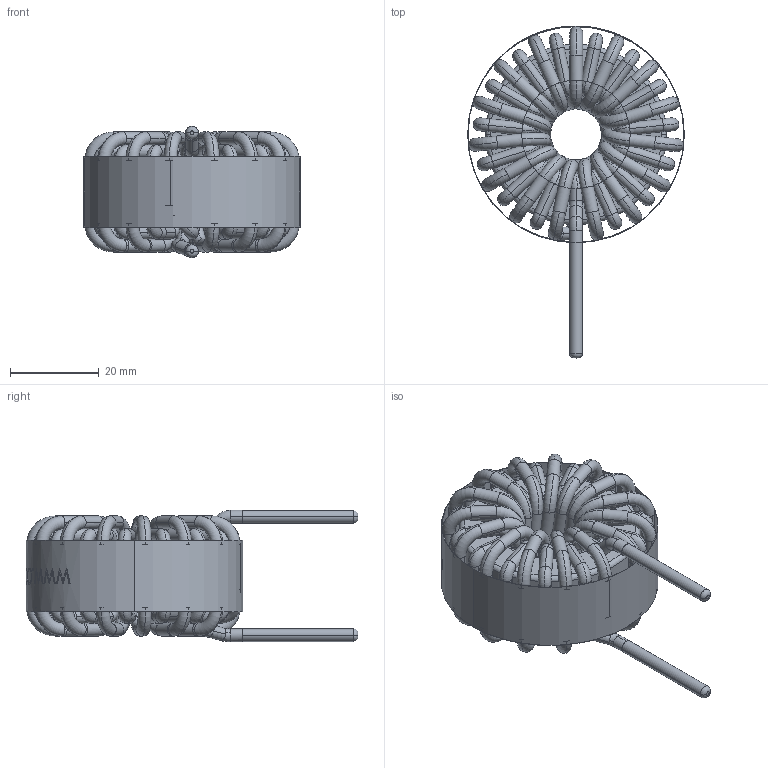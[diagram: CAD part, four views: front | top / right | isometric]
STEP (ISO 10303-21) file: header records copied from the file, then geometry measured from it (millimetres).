
FILE_DESCRIPTION (( 'STEP AP214' ), '1' );
FILE_NAME ('HF400-900M-55AV.step', '2021-03-04T09:51:14', ( '' ), ( '' ), 'SwSTEP 2.0', 'SolidWorks 2015', '' );
FILE_SCHEMA (( 'AUTOMOTIVE_DESIGN' ));
Length unit declared in the file: millimetre
Products named in the file (4): WINDING; HF400-900M-55AV; CORE; WRAPPER
Assembly tree (3 placements, depth 2):
  HF400-900M-55AV
    CORE
    WINDING
    WRAPPER
Bounding box: 48.8 x 74.72 x 29.57 mm (x, y, z)
Volume: 27077.8 mm3; surface area: 28523.4 mm2
Topology: 30 solids, 30 shells, 804 faces, 2104 edges, 1380 vertices
Faces by surface type: cylinder 336, torus 266, bspline 103, plane 99
Entity records: 37043 total; most frequent: CARTESIAN_POINT 14751, DIRECTION 4590, ORIENTED_EDGE 4208, AXIS2_PLACEMENT_3D 2125, EDGE_CURVE 2104, CIRCLE 1418, VERTEX_POINT 1380, EDGE_LOOP 832
